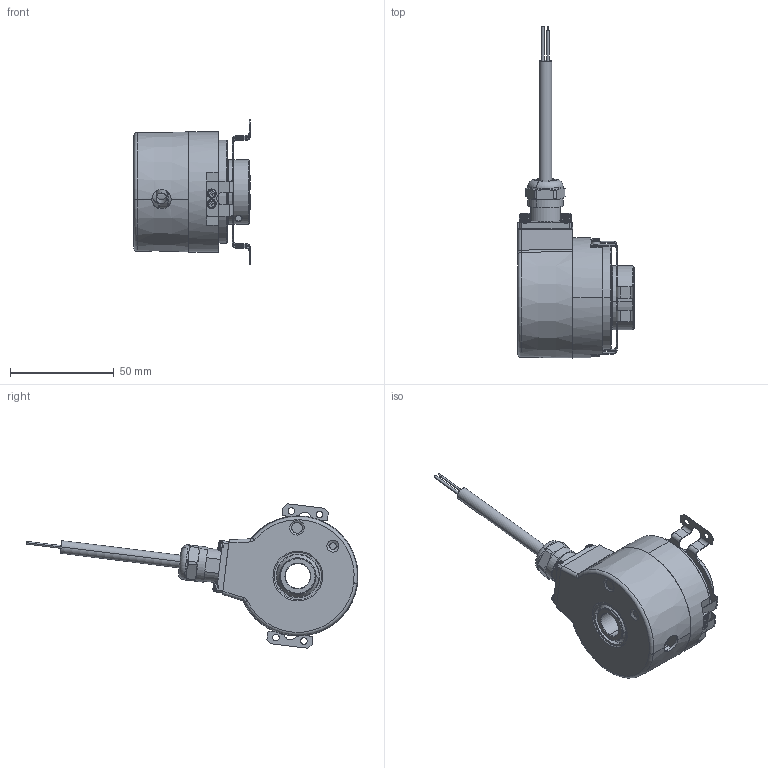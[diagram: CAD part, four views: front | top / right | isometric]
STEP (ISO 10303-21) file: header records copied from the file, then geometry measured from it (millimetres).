
FILE_DESCRIPTION (( 'STEP AP203' ), '1' );
FILE_NAME ('8.5834FSX.B4X2.XXXX.STEP', '2013-08-01T12:30:28', ( 'Admin' ), ( 'Fritz Kübler GmbH' ), 'SwSTEP 2.0', 'SolidWorks 2012', '' );
FILE_SCHEMA (( 'CONFIG_CONTROL_DESIGN' ));
Length unit declared in the file: millimetre
Products named in the file (1): 8.5834FSX.B4X2.XXXX
Bounding box: 56 x 160.1 x 69.69 mm (x, y, z)
Volume: 82055 mm3; surface area: 57157.5 mm2
Topology: 26 solids, 27 shells, 1293 faces, 3198 edges, 1956 vertices
Faces by surface type: plane 468, cylinder 410, cone 218, torus 110, sphere 52, bspline 35
Entity records: 41160 total; most frequent: CARTESIAN_POINT 10626, DIRECTION 6669, ORIENTED_EDGE 6168, EDGE_CURVE 3084, AXIS2_PLACEMENT_3D 2665, VERTEX_POINT 1920, EDGE_LOOP 1468, CIRCLE 1406
